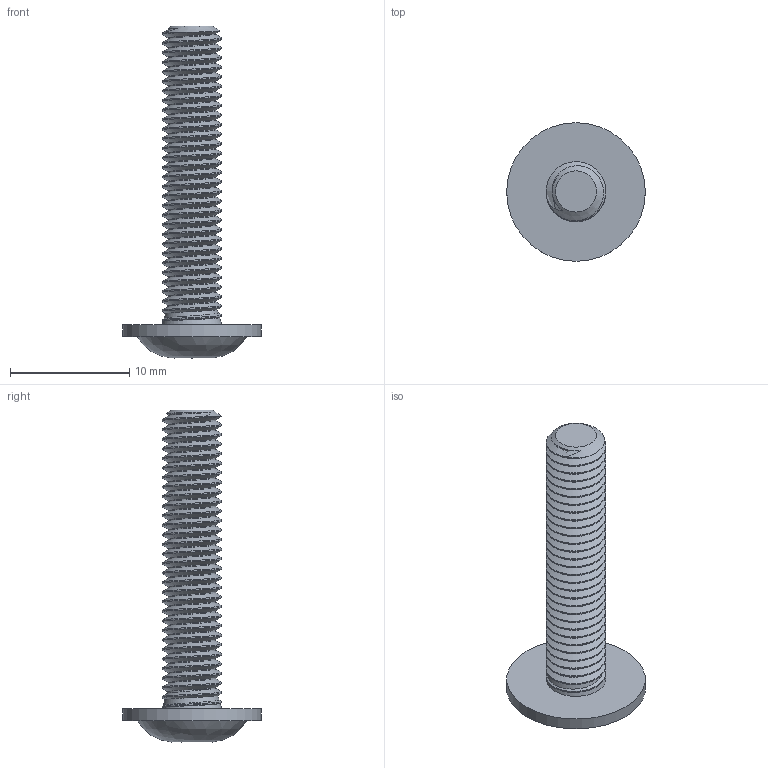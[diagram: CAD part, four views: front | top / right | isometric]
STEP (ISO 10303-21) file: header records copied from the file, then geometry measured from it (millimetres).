
FILE_DESCRIPTION((''),'2;1');
FILE_NAME('C:\Documents and Settings\Administrator\My Documents\Andys Backup Data\WEBSITE\DREAMWEAVER\MiniTec\Products\Screw_And_Nuts\Catalog_Pages\Button_Head_Flange\CAD\Step\21.9956 M5X25 BUTTON HEAD FLANGE.stp','2012-08-07T08:11:22',('Administrator'),(''),'Autodesk Inventor 2009','Autodesk Inventor 2009','');
FILE_SCHEMA(('AUTOMOTIVE_DESIGN { 1 0 10303 214 1 1 1 1 }'));
Length unit declared in the file: millimetre
Products named in the file (1): 21.9956 M5X25 BUTTON HEAD FLANGE
Bounding box: 11.6 x 11.6 x 27.79 mm (x, y, z)
Volume: 565.7 mm3; surface area: 885 mm2
Topology: 1 solids, 1 shells, 24 faces, 306 edges, 286 vertices
Faces by surface type: plane 10, cone 8, bspline 3, cylinder 3
Full cylindrical faces by diameter (mm): 11.6 x1
Entity records: 5807 total; most frequent: CARTESIAN_POINT 4266, ORIENTED_EDGE 604, EDGE_CURVE 302, VERTEX_POINT 285, DIRECTION 100, AXIS2_PLACEMENT_3D 38, EDGE_LOOP 29, FACE_OUTER_BOUND 24
